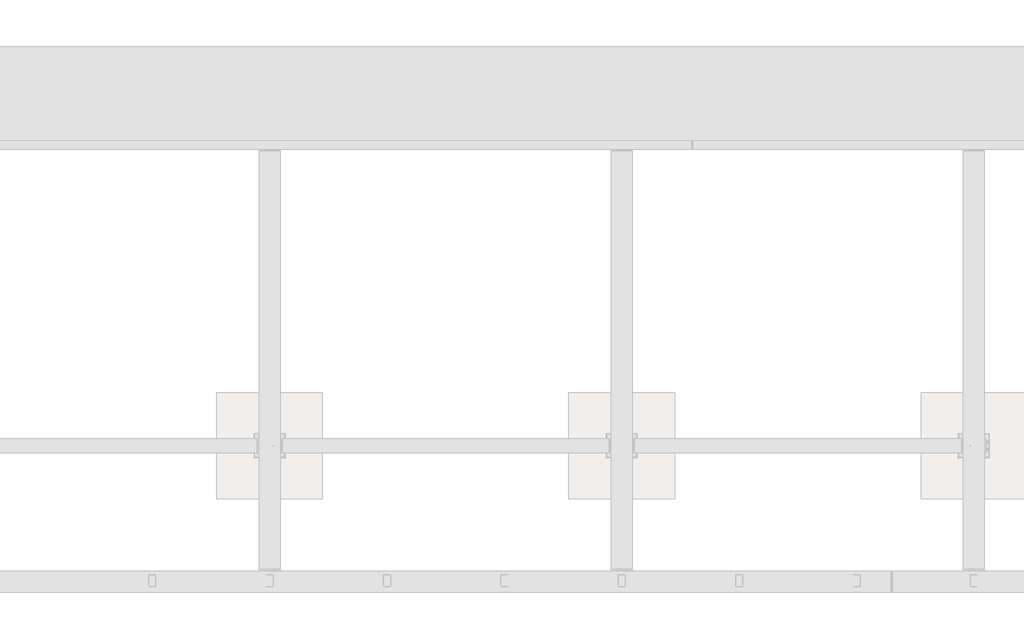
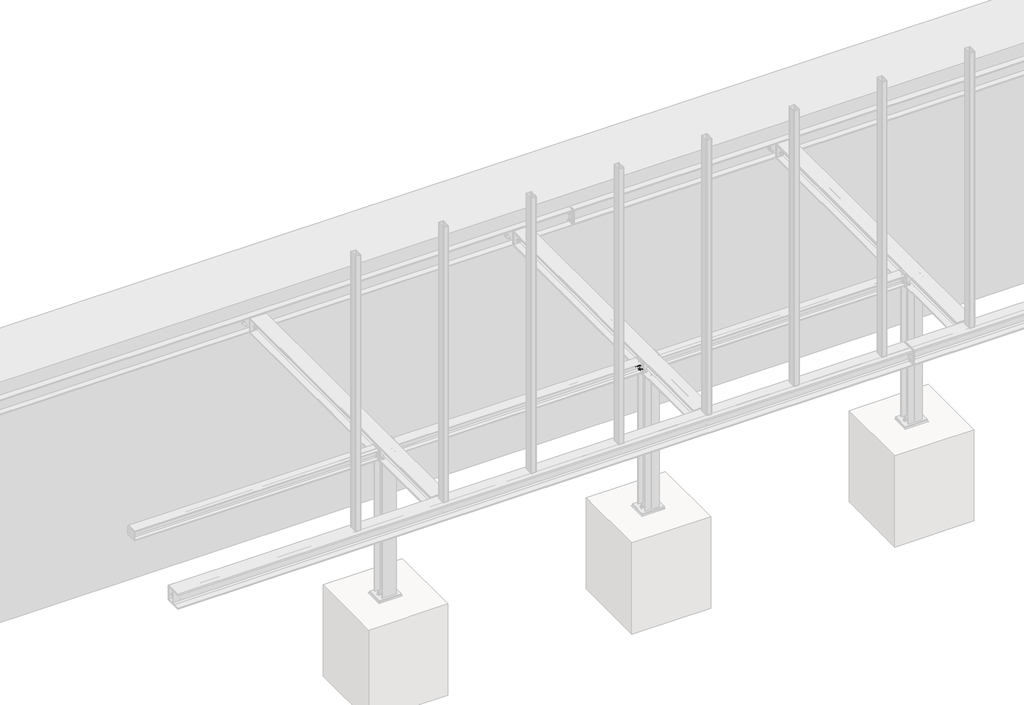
# One storey, part 21 of 31: 4 assemblies.
"""IFC4 building model written with IfcOpenShell, lengths in millimetres."""

import ifcopenshell
import ifcopenshell.guid

model = None  # the IFC model being written
_history = None  # IfcOwnerHistory: only IFC2X3 demands one
_inside = {}  # id of a spatial element -> (the spatial element, [elements in it])
_under = {}  # id of a project, library or spatial element -> (it, [spatial elements below it])
_declared = {}  # id of a project -> (the project, [libraries it declares])
_typed = {}  # id of a type object -> (the type object, [elements of that type])
_made_of = {}  # id of a material, layer set ... -> (it, [elements and type objects made of it])


def new_model(schema):
    """Start an empty IFC model of exactly this schema.

    Asked for "IFC4X3", IfcOpenShell would pick the latest addendum, in which some entities
    have other attributes; the version numbers below select the first issue.
    IFC2X3 requires an IfcOwnerHistory on every rooted entity: one is made here for all.
    """
    global model, _history
    if schema == "IFC4X3":
        model = ifcopenshell.file(schema_version=(4, 3, 0, 0))
    else:
        model = ifcopenshell.file(schema=schema)
    _inside.clear()
    _under.clear()
    _declared.clear()
    _typed.clear()
    _made_of.clear()
    _history = None
    if model.schema == "IFC2X3":
        org = make("IfcOrganization", Name="unknown")
        user = make(
            "IfcPersonAndOrganization",
            ThePerson=make("IfcPerson", FamilyName="unknown"),
            TheOrganization=org,
        )
        app = make(
            "IfcApplication",
            ApplicationDeveloper=org,
            Version="unknown",
            ApplicationFullName="unknown",
            ApplicationIdentifier="unknown",
        )
        _history = make(
            "IfcOwnerHistory",
            OwningUser=user,
            OwningApplication=app,
            ChangeAction="ADDED",
            CreationDate=0,
        )
    return model


def make(cls, **values):
    """One entity of the class cls with the attributes given. An attribute that is None is left unset."""
    return model.create_entity(
        cls, **{name: value for name, value in values.items() if value is not None}
    )


def rooted(cls, **values):
    """An entity with a GlobalId (a new one), such as an element, a storey or a relation."""
    return make(cls, GlobalId=ifcopenshell.guid.new(), OwnerHistory=_history, **values)


def si_unit(unit_type, name, prefix=None):
    """IfcSIUnit, for example si_unit("LENGTHUNIT", "METRE", prefix="MILLI")."""
    return make("IfcSIUnit", UnitType=unit_type, Prefix=prefix, Name=name)


def assignment(units):
    """IfcUnitAssignment: the units of a project."""
    return None if units is None else make("IfcUnitAssignment", Units=units)


def point(xyz):
    """IfcCartesianPoint."""
    return None if xyz is None else make("IfcCartesianPoint", Coordinates=xyz)


def direction(xyz):
    """IfcDirection."""
    return None if xyz is None else make("IfcDirection", DirectionRatios=xyz)


def frame(location, z_axis=None, x_axis=None):
    """IfcAxis2Placement3D, a coordinate frame: its origin and axes. An axis left out is left unset."""
    return make(
        "IfcAxis2Placement3D",
        Location=point(location),
        Axis=direction(z_axis),
        RefDirection=direction(x_axis),
    )


def frame_2d(location, x_axis=None):
    """IfcAxis2Placement2D, a coordinate frame in the plane: its origin and x axis."""
    return make(
        "IfcAxis2Placement2D", Location=point(location), RefDirection=direction(x_axis)
    )


def origin():
    """The frame at (0, 0, 0) with its axes left unset."""
    return frame((0.0, 0.0, 0.0))


def place(relative_to, where):
    """IfcLocalPlacement: puts the frame where relative to a parent placement (None: the world)."""
    return make(
        "IfcLocalPlacement", PlacementRelTo=relative_to, RelativePlacement=where
    )


def context(
    kind, dimensions, precision=None, world=None, true_north=None, identifier=None
):
    """IfcGeometricRepresentationContext, for example the 3D "Model" context."""
    return make(
        "IfcGeometricRepresentationContext",
        ContextIdentifier=identifier,
        ContextType=kind,
        CoordinateSpaceDimension=dimensions,
        Precision=precision,
        WorldCoordinateSystem=world,
        TrueNorth=true_north,
    )


def project(units=None, contexts=None):
    """IfcProject with its units and contexts."""
    return rooted(
        "IfcProject",
        Name="project",
        RepresentationContexts=contexts,
        UnitsInContext=assignment(units),
    )


def spatial(cls, under=None, at=None, **own):
    """A site, building, storey or space (cls), placed at a placement, below another one or the project."""
    s = rooted(cls, ObjectPlacement=at, **own)
    if under is not None:
        _under.setdefault(under.id(), (under, []))[1].append(s)
    return s


def polyline(points):
    """IfcPolyline through the points."""
    return make("IfcPolyline", Points=[point(p) for p in points])


def circle_curve(where, radius):
    """IfcCircle in the frame where."""
    return make("IfcCircle", Position=where, Radius=radius)


def trimmed(basis, trim1, trim2, sense, master):
    """IfcTrimmedCurve: the piece of a basis curve between two trims."""
    return make(
        "IfcTrimmedCurve",
        BasisCurve=basis,
        Trim1=trim1,
        Trim2=trim2,
        SenseAgreement=sense,
        MasterRepresentation=master,
    )


def segment(curve, same_sense, transition):
    """IfcCompositeCurveSegment."""
    return make(
        "IfcCompositeCurveSegment",
        Transition=transition,
        SameSense=same_sense,
        ParentCurve=curve,
    )


def composite_curve(segments, self_intersect=None):
    """IfcCompositeCurve: segments joined end to end."""
    return make("IfcCompositeCurve", Segments=segments, SelfIntersect=self_intersect)


def outline(outer, holes=None, kind="AREA"):
    """IfcArbitraryClosedProfileDef: a profile drawn as a closed curve; with holes, ...WithVoids."""
    if holes is None:
        return make("IfcArbitraryClosedProfileDef", ProfileType=kind, OuterCurve=outer)
    return make(
        "IfcArbitraryProfileDefWithVoids",
        ProfileType=kind,
        OuterCurve=outer,
        InnerCurves=holes,
    )


def extrude(swept, where, along, depth):
    """IfcExtrudedAreaSolid: the profile swept, set in the frame where, extruded along a direction by depth."""
    return make(
        "IfcExtrudedAreaSolid",
        SweptArea=swept,
        Position=where,
        ExtrudedDirection=direction(along),
        Depth=depth,
    )


def shape(context_of_items, identifier, shape_type, items):
    """IfcShapeRepresentation: the items that make up one representation, for example the "Body"."""
    return make(
        "IfcShapeRepresentation",
        ContextOfItems=context_of_items,
        RepresentationIdentifier=identifier,
        RepresentationType=shape_type,
        Items=items,
    )


def made_of(thing, what):
    """Note that an element or type object is made of a material, layer set ...; save() writes the relation."""
    if what is not None:
        _made_of.setdefault(what.id(), (what, []))[1].append(thing)
    return thing


def element(
    cls,
    number,
    at=None,
    inside=None,
    cuts=None,
    type_object=None,
    material=None,
    context=None,
    identifier="Body",
    shape_type=None,
    held_by="IfcProductDefinitionShape",
    body=None,
    shapes=None,
    **own,
):
    """One element of the class cls, such as IfcWall. Its Tag is "e" and its number.

    at: its placement. inside: the storey or other place that contains it. cuts: it is an
    opening in that element (IfcRelVoidsElement). A single representation is given by context,
    identifier, shape_type and body (its items); several are given by shapes. held_by: the class
    of the entity that holds the representations. save() writes the other relations.
    """
    e = rooted(cls, Tag="e%d" % number, ObjectPlacement=at, **own)
    if body is not None:
        shapes = [shape(context, identifier, shape_type, body)]
    if shapes is not None:
        e.Representation = make(held_by, Representations=shapes)
    if inside is not None:
        _inside.setdefault(inside.id(), (inside, []))[1].append(e)
    if cuts is not None:
        rooted(
            "IfcRelVoidsElement", RelatingBuildingElement=cuts, RelatedOpeningElement=e
        )
    if type_object is not None:
        _typed.setdefault(type_object.id(), (type_object, []))[1].append(e)
    return made_of(e, material)


def aggregate(whole, parts):
    """IfcRelAggregates: a whole, such as a stair, and the parts it consists of."""
    return rooted("IfcRelAggregates", RelatingObject=whole, RelatedObjects=parts)


def save(model, path):
    """Write the relations noted so far, then the file.

    IfcRelAggregates (storeys below a building ...), IfcRelContainedInSpatialStructure (elements
    in a storey), IfcRelDefinesByType, IfcRelAssociatesMaterial and IfcRelDeclares: one each for
    every whole, place, type object, material and project.
    """
    for whole, parts in _under.values():
        aggregate(whole, parts)
    for where, things in _inside.values():
        rooted(
            "IfcRelContainedInSpatialStructure",
            RelatedElements=things,
            RelatingStructure=where,
        )
    for kind, things in _typed.values():
        rooted("IfcRelDefinesByType", RelatedObjects=things, RelatingType=kind)
    for what, things in _made_of.values():
        rooted("IfcRelAssociatesMaterial", RelatedObjects=things, RelatingMaterial=what)
    for by, libraries in _declared.values():
        rooted("IfcRelDeclares", RelatingContext=by, RelatedDefinitions=libraries)
    model.write(path)


model = new_model("IFC4")

# Units and contexts
model_context = context("Model", 3, world=origin())
ifc_project = project(units=[si_unit("LENGTHUNIT", "METRE", prefix="MILLI")], contexts=[model_context])

# Site, building, storey
site = spatial("IfcSite", under=ifc_project)
building = spatial("IfcBuilding", under=site)
storey = spatial("IfcBuildingStorey", under=building, Name="Základy", Elevation=-1200.0)

# Assemblies
placement = place(None, origin())
element("IfcElementAssembly", 1, at=placement, inside=storey, context=model_context, shape_type="SweptSolid", body=[
    extrude(outline(composite_curve([segment(polyline([(6073.6, 60.0), (6026.4, 60.0)]), True, "CONTINUOUS"), segment(trimmed(circle_curve(frame_2d((6026.4, 66.4)), 6.4), [point((6026.4, 60.0))], [point((6020.0, 66.4))], False, "CARTESIAN"), True, "CONTINUOUS"), segment(polyline([(6020.0, 66.4), (6020.0, 153.6)]), True, "CONTINUOUS"), segment(trimmed(circle_curve(frame_2d((6026.4, 153.6)), 6.4), [point((6020.0, 153.6))], [point((6026.4, 160.0))], False, "CARTESIAN"), True, "CONTINUOUS"), segment(polyline([(6026.4, 160.0), (6073.6, 160.0)]), True, "CONTINUOUS"), segment(trimmed(circle_curve(frame_2d((6073.6, 153.6)), 6.4), [point((6073.6, 160.0))], [point((6080.0, 153.6))], False, "CARTESIAN"), True, "CONTINUOUS"), segment(polyline([(6080.0, 153.6), (6080.0, 66.4)]), True, "CONTINUOUS"), segment(trimmed(circle_curve(frame_2d((6073.6, 66.4)), 6.4), [point((6080.0, 66.4))], [point((6073.6, 60.0))], False, "CARTESIAN"), True, "CONTINUOUS")], self_intersect=False), holes=[composite_curve([segment(trimmed(circle_curve(frame_2d((6073.6, 66.4)), 3.2), [point((6073.6, 63.2))], [point((6076.8, 66.4))], True, "CARTESIAN"), True, "CONTINUOUS"), segment(polyline([(6076.8, 66.4), (6076.8, 153.6)]), True, "CONTINUOUS"), segment(trimmed(circle_curve(frame_2d((6073.6, 153.6)), 3.2), [point((6076.8, 153.6))], [point((6073.6, 156.8))], True, "CARTESIAN"), True, "CONTINUOUS"), segment(polyline([(6073.6, 156.8), (6026.4, 156.8)]), True, "CONTINUOUS"), segment(trimmed(circle_curve(frame_2d((6026.4, 153.6)), 3.2), [point((6026.4, 156.8))], [point((6023.2, 153.6))], True, "CARTESIAN"), True, "CONTINUOUS"), segment(polyline([(6023.2, 153.6), (6023.2, 66.4)]), True, "CONTINUOUS"), segment(trimmed(circle_curve(frame_2d((6026.4, 66.4)), 3.2), [point((6023.2, 66.4))], [point((6026.4, 63.2))], True, "CARTESIAN"), True, "CONTINUOUS"), segment(polyline([(6026.4, 63.2), (6073.6, 63.2)]), True, "CONTINUOUS")], self_intersect=False)]), frame((0.0, 0.0, -160.0), z_axis=(0.0, 0.0, 1.0), x_axis=(1.0, 0.0, 0.0)), (0.0, 0.0, 1.0), 3320.0),
])
element("IfcElementAssembly", 2, at=placement, inside=storey, context=model_context, shape_type="SweptSolid", body=[
    extrude(outline(composite_curve([segment(polyline([(7073.6, 60.0), (7026.4, 60.0)]), True, "CONTINUOUS"), segment(trimmed(circle_curve(frame_2d((7026.4, 66.4)), 6.4), [point((7026.4, 60.0))], [point((7020.0, 66.4))], False, "CARTESIAN"), True, "CONTINUOUS"), segment(polyline([(7020.0, 66.4), (7020.0, 153.6)]), True, "CONTINUOUS"), segment(trimmed(circle_curve(frame_2d((7026.4, 153.6)), 6.4), [point((7020.0, 153.6))], [point((7026.4, 160.0))], False, "CARTESIAN"), True, "CONTINUOUS"), segment(polyline([(7026.4, 160.0), (7073.6, 160.0)]), True, "CONTINUOUS"), segment(trimmed(circle_curve(frame_2d((7073.6, 153.6)), 6.4), [point((7073.6, 160.0))], [point((7080.0, 153.6))], False, "CARTESIAN"), True, "CONTINUOUS"), segment(polyline([(7080.0, 153.6), (7080.0, 66.4)]), True, "CONTINUOUS"), segment(trimmed(circle_curve(frame_2d((7073.6, 66.4)), 6.4), [point((7080.0, 66.4))], [point((7073.6, 60.0))], False, "CARTESIAN"), True, "CONTINUOUS")], self_intersect=False), holes=[composite_curve([segment(trimmed(circle_curve(frame_2d((7073.6, 66.4)), 3.2), [point((7073.6, 63.2))], [point((7076.8, 66.4))], True, "CARTESIAN"), True, "CONTINUOUS"), segment(polyline([(7076.8, 66.4), (7076.8, 153.6)]), True, "CONTINUOUS"), segment(trimmed(circle_curve(frame_2d((7073.6, 153.6)), 3.2), [point((7076.8, 153.6))], [point((7073.6, 156.8))], True, "CARTESIAN"), True, "CONTINUOUS"), segment(polyline([(7073.6, 156.8), (7026.4, 156.8)]), True, "CONTINUOUS"), segment(trimmed(circle_curve(frame_2d((7026.4, 153.6)), 3.2), [point((7026.4, 156.8))], [point((7023.2, 153.6))], True, "CARTESIAN"), True, "CONTINUOUS"), segment(polyline([(7023.2, 153.6), (7023.2, 66.4)]), True, "CONTINUOUS"), segment(trimmed(circle_curve(frame_2d((7026.4, 66.4)), 3.2), [point((7023.2, 66.4))], [point((7026.4, 63.2))], True, "CARTESIAN"), True, "CONTINUOUS"), segment(polyline([(7026.4, 63.2), (7073.6, 63.2)]), True, "CONTINUOUS")], self_intersect=False)]), frame((0.0, 0.0, -160.0), z_axis=(0.0, 0.0, 1.0), x_axis=(1.0, 0.0, 0.0)), (0.0, 0.0, 1.0), 3320.0),
])
element("IfcElementAssembly", 3, at=placement, inside=storey, context=model_context, shape_type="SweptSolid", body=[
    extrude(outline(composite_curve([segment(polyline([(1200.0, -193.0), (1320.0, -193.0), (1320.0, -201.0), (1274.5, -201.0)]), True, "CONTINUOUS"), segment(trimmed(circle_curve(frame_2d((1274.5, -213.0)), 12.0), [point((1274.5, -201.0))], [point((1262.5, -213.0))], True, "CARTESIAN"), True, "CONTINUOUS"), segment(polyline([(1262.5, -213.0), (1262.5, -287.0)]), True, "CONTINUOUS"), segment(trimmed(circle_curve(frame_2d((1274.5, -287.0)), 12.0), [point((1262.5, -287.0))], [point((1274.5, -299.0))], True, "CARTESIAN"), True, "CONTINUOUS"), segment(polyline([(1274.5, -299.0), (1320.0, -299.0), (1320.0, -307.0), (1200.0, -307.0), (1200.0, -299.0), (1245.5, -299.0)]), True, "CONTINUOUS"), segment(trimmed(circle_curve(frame_2d((1245.5, -287.0)), 12.0), [point((1245.5, -299.0))], [point((1257.5, -287.0))], True, "CARTESIAN"), True, "CONTINUOUS"), segment(polyline([(1257.5, -287.0), (1257.5, -213.0)]), True, "CONTINUOUS"), segment(trimmed(circle_curve(frame_2d((1245.5, -213.0)), 12.0), [point((1257.5, -213.0))], [point((1245.5, -201.0))], True, "CARTESIAN"), True, "CONTINUOUS"), segment(polyline([(1245.5, -201.0), (1200.0, -201.0), (1200.0, -193.0)]), True, "CONTINUOUS")], self_intersect=False)), frame((3160.0, 0.0, 0.0), z_axis=(1.0, 0.0, 0.0), x_axis=(0.0, 1.0, 0.0)), (0.0, 0.0, 1.0), 2780.0),
    extrude(outline(polyline([(5940.0, 1200.0), (5940.0, 1320.0), (5950.0, 1320.0), (5950.0, 1200.0), (5940.0, 1200.0)])), frame((0.0, 0.0, -299.0), z_axis=(0.0, 0.0, 1.0), x_axis=(1.0, 0.0, 0.0)), (0.0, 0.0, 1.0), 98.0),
    extrude(outline(polyline([(3150.0, 1200.0), (3150.0, 1320.0), (3160.0, 1320.0), (3160.0, 1200.0), (3150.0, 1200.0)])), frame((0.0, 0.0, -299.0), z_axis=(0.0, 0.0, 1.0), x_axis=(1.0, 0.0, 0.0)), (0.0, 0.0, 1.0), 98.0),
])
element("IfcElementAssembly", 4, at=placement, inside=storey, context=model_context, shape_type="SweptSolid", body=[
    extrude(outline(composite_curve([segment(polyline([(-340.0, 6140.0), (-326.0, 6140.0), (-326.0, 6069.25)]), True, "CONTINUOUS"), segment(trimmed(circle_curve(frame_2d((-311.0, 6069.25)), 15.0), [point((-326.0, 6069.25))], [point((-311.0, 6054.25))], True, "CARTESIAN"), True, "CONTINUOUS"), segment(polyline([(-311.0, 6054.25), (-189.0, 6054.25)]), True, "CONTINUOUS"), segment(trimmed(circle_curve(frame_2d((-189.0, 6069.25)), 15.0), [point((-189.0, 6054.25))], [point((-174.0, 6069.25))], True, "CARTESIAN"), True, "CONTINUOUS"), segment(polyline([(-174.0, 6069.25), (-174.0, 6140.0), (-160.0, 6140.0), (-160.0, 5960.0), (-174.0, 5960.0), (-174.0, 6030.75)]), True, "CONTINUOUS"), segment(trimmed(circle_curve(frame_2d((-189.0, 6030.75)), 15.0), [point((-174.0, 6030.75))], [point((-189.0, 6045.75))], True, "CARTESIAN"), True, "CONTINUOUS"), segment(polyline([(-189.0, 6045.75), (-311.0, 6045.75)]), True, "CONTINUOUS"), segment(trimmed(circle_curve(frame_2d((-311.0, 6030.75)), 15.0), [point((-311.0, 6045.75))], [point((-326.0, 6030.75))], True, "CARTESIAN"), True, "CONTINUOUS"), segment(polyline([(-326.0, 6030.75), (-326.0, 5960.0), (-340.0, 5960.0), (-340.0, 6140.0)]), True, "CONTINUOUS")], self_intersect=False)), frame((0.0, 210.0, 0.0), z_axis=(0.0, 1.0, 0.0), x_axis=(0.0, 0.0, 1.0)), (0.0, 0.0, 1.0), 3557.0),
    extrude(outline(polyline([(5960.0, 3775.0), (6140.0, 3775.0), (6140.0, 3767.0), (5960.0, 3767.0), (5960.0, 3775.0)])), frame((0.0, 0.0, -316.0), z_axis=(0.0, 0.0, 1.0), x_axis=(1.0, 0.0, 0.0)), (0.0, 0.0, 1.0), 132.0),
    extrude(outline(polyline([(5950.0, 1200.0), (5950.0, 1320.0), (5960.0, 1320.0), (5960.0, 1200.0), (5950.0, 1200.0)])), frame((0.0, 0.0, -332.0), z_axis=(0.0, 0.0, 1.0), x_axis=(1.0, 0.0, 0.0)), (0.0, 0.0, 1.0), 164.0),
    extrude(outline(polyline([(6140.0, 1200.0), (6140.0, 1320.0), (6150.0, 1320.0), (6150.0, 1200.0), (6140.0, 1200.0)])), frame((0.0, 0.0, -332.0), z_axis=(0.0, 0.0, 1.0), x_axis=(1.0, 0.0, 0.0)), (0.0, 0.0, 1.0), 164.0),
    extrude(outline(composite_curve([segment(polyline([(-174.0, 6140.0), (-174.0, 6079.5)]), True, "CONTINUOUS"), segment(trimmed(circle_curve(frame_2d((-174.0, 6054.5)), 25.0), [point((-174.0, 6079.5))], [point((-199.0, 6054.5))], True, "CARTESIAN"), True, "CONTINUOUS"), segment(polyline([(-199.0, 6054.5), (-301.0, 6054.5)]), True, "CONTINUOUS"), segment(trimmed(circle_curve(frame_2d((-326.0, 6054.5)), 25.0), [point((-301.0, 6054.5))], [point((-326.0, 6079.5))], True, "CARTESIAN"), True, "CONTINUOUS"), segment(polyline([(-326.0, 6079.5), (-326.0, 6140.0), (-174.0, 6140.0)]), True, "CONTINUOUS")], self_intersect=False)), frame((0.0, 1256.0, 0.0), z_axis=(0.0, 1.0, 0.0), x_axis=(0.0, 0.0, 1.0)), (0.0, 0.0, 1.0), 8.0),
    extrude(outline(composite_curve([segment(polyline([(-174.0, 5960.0), (-326.0, 5960.0), (-326.0, 6020.5)]), True, "CONTINUOUS"), segment(trimmed(circle_curve(frame_2d((-326.0, 6045.5)), 25.0), [point((-326.0, 6020.5))], [point((-301.0, 6045.5))], True, "CARTESIAN"), True, "CONTINUOUS"), segment(polyline([(-301.0, 6045.5), (-199.0, 6045.5)]), True, "CONTINUOUS"), segment(trimmed(circle_curve(frame_2d((-174.0, 6045.5)), 25.0), [point((-199.0, 6045.5))], [point((-174.0, 6020.5))], True, "CARTESIAN"), True, "CONTINUOUS"), segment(polyline([(-174.0, 6020.5), (-174.0, 5960.0)]), True, "CONTINUOUS")], self_intersect=False)), frame((0.0, 1256.0, 0.0), z_axis=(0.0, 1.0, 0.0), x_axis=(0.0, 0.0, 1.0)), (0.0, 0.0, 1.0), 8.0),
    extrude(outline(polyline([(5960.0, 210.0), (6140.0, 210.0), (6140.0, 200.0), (5960.0, 200.0), (5960.0, 210.0)])), frame((0.0, 0.0, -332.0), z_axis=(0.0, 0.0, 1.0), x_axis=(1.0, 0.0, 0.0)), (0.0, 0.0, 1.0), 164.0),
    extrude(outline(composite_curve([segment(trimmed(circle_curve(frame_2d((1230.0, -225.0)), 6.5), [point((1230.0, -231.5))], [point((1230.0, -218.5))], False, "CARTESIAN"), True, "CONTINUOUS"), segment(trimmed(circle_curve(frame_2d((1230.0, -225.0)), 6.5), [point((1230.0, -218.5))], [point((1230.0, -231.5))], False, "CARTESIAN"), True, "CONTINUOUS")], self_intersect=False)), frame((5949.9, 0.0, 0.0), z_axis=(1.0, 0.0, 0.0), x_axis=(0.0, 1.0, 0.0)), (0.0, 0.0, 1.0), 10.0),
    extrude(outline(polyline([(1230.0, -235.3923048), (1221.0, -230.1961524), (1221.0, -219.8038476), (1230.0, -214.6076952), (1239.0, -219.8038476), (1239.0, -230.1961524), (1230.0, -235.3923048)])), frame((5962.5, 0.0, 0.0), z_axis=(1.0, 0.0, 0.0), x_axis=(0.0, 1.0, 0.0)), (0.0, 0.0, 1.0), 7.5),
    extrude(outline(composite_curve([segment(trimmed(circle_curve(frame_2d((1230.0, -225.0)), 6.0), [point((1230.0, -231.0))], [point((1230.0, -219.0))], False, "CARTESIAN"), True, "CONTINUOUS"), segment(trimmed(circle_curve(frame_2d((1230.0, -225.0)), 6.0), [point((1230.0, -219.0))], [point((1230.0, -231.0))], False, "CARTESIAN"), True, "CONTINUOUS")], self_intersect=False)), frame((5922.5, 0.0, 0.0), z_axis=(1.0, 0.0, 0.0), x_axis=(0.0, 1.0, 0.0)), (0.0, 0.0, 1.0), 40.0),
    extrude(outline(composite_curve([segment(trimmed(circle_curve(frame_2d((1230.0, -225.0)), 12.0), [point((1230.0, -237.0))], [point((1230.0, -213.0))], False, "CARTESIAN"), True, "CONTINUOUS"), segment(trimmed(circle_curve(frame_2d((1230.0, -225.0)), 12.0), [point((1230.0, -213.0))], [point((1230.0, -237.0))], False, "CARTESIAN"), True, "CONTINUOUS")], self_intersect=False)), frame((5960.0, 0.0, 0.0), z_axis=(1.0, 0.0, 0.0), x_axis=(0.0, 1.0, 0.0)), (0.0, 0.0, 1.0), 2.5),
    extrude(outline(composite_curve([segment(trimmed(circle_curve(frame_2d((1230.0, -225.0)), 12.0), [point((1230.0, -237.0))], [point((1230.0, -213.0))], False, "CARTESIAN"), True, "CONTINUOUS"), segment(trimmed(circle_curve(frame_2d((1230.0, -225.0)), 12.0), [point((1230.0, -213.0))], [point((1230.0, -237.0))], False, "CARTESIAN"), True, "CONTINUOUS")], self_intersect=False)), frame((5937.5, 0.0, 0.0), z_axis=(1.0, 0.0, 0.0), x_axis=(0.0, 1.0, 0.0)), (0.0, 0.0, 1.0), 2.5),
    extrude(outline(polyline([(1230.0, -235.9696551), (1220.5, -230.4848276), (1220.5, -219.5151724), (1230.0, -214.0303449), (1239.5, -219.5151724), (1239.5, -230.4848276), (1230.0, -235.9696551)])), frame((5927.5, 0.0, 0.0), z_axis=(1.0, 0.0, 0.0), x_axis=(0.0, 1.0, 0.0)), (0.0, 0.0, 1.0), 10.0),
    extrude(outline(composite_curve([segment(trimmed(circle_curve(frame_2d((1230.0, -225.0)), 6.5), [point((1230.0, -231.5))], [point((1230.0, -218.5))], False, "CARTESIAN"), True, "CONTINUOUS"), segment(trimmed(circle_curve(frame_2d((1230.0, -225.0)), 6.5), [point((1230.0, -218.5))], [point((1230.0, -231.5))], False, "CARTESIAN"), True, "CONTINUOUS")], self_intersect=False)), frame((5940.0, 0.0, 0.0), z_axis=(1.0, 0.0, 0.0), x_axis=(0.0, 1.0, 0.0)), (0.0, 0.0, 1.0), 10.1),
    extrude(outline(composite_curve([segment(trimmed(circle_curve(frame_2d((1230.0, -275.0)), 6.5), [point((1230.0, -281.5))], [point((1230.0, -268.5))], False, "CARTESIAN"), True, "CONTINUOUS"), segment(trimmed(circle_curve(frame_2d((1230.0, -275.0)), 6.5), [point((1230.0, -268.5))], [point((1230.0, -281.5))], False, "CARTESIAN"), True, "CONTINUOUS")], self_intersect=False)), frame((5949.9, 0.0, 0.0), z_axis=(1.0, 0.0, 0.0), x_axis=(0.0, 1.0, 0.0)), (0.0, 0.0, 1.0), 10.0),
    extrude(outline(polyline([(1230.0, -285.3923048), (1221.0, -280.1961524), (1221.0, -269.8038476), (1230.0, -264.6076952), (1239.0, -269.8038476), (1239.0, -280.1961524), (1230.0, -285.3923048)])), frame((5962.5, 0.0, 0.0), z_axis=(1.0, 0.0, 0.0), x_axis=(0.0, 1.0, 0.0)), (0.0, 0.0, 1.0), 7.5),
    extrude(outline(composite_curve([segment(trimmed(circle_curve(frame_2d((1230.0, -275.0)), 6.0), [point((1230.0, -281.0))], [point((1230.0, -269.0))], False, "CARTESIAN"), True, "CONTINUOUS"), segment(trimmed(circle_curve(frame_2d((1230.0, -275.0)), 6.0), [point((1230.0, -269.0))], [point((1230.0, -281.0))], False, "CARTESIAN"), True, "CONTINUOUS")], self_intersect=False)), frame((5922.5, 0.0, 0.0), z_axis=(1.0, 0.0, 0.0), x_axis=(0.0, 1.0, 0.0)), (0.0, 0.0, 1.0), 40.0),
    extrude(outline(composite_curve([segment(trimmed(circle_curve(frame_2d((1230.0, -275.0)), 12.0), [point((1230.0, -287.0))], [point((1230.0, -263.0))], False, "CARTESIAN"), True, "CONTINUOUS"), segment(trimmed(circle_curve(frame_2d((1230.0, -275.0)), 12.0), [point((1230.0, -263.0))], [point((1230.0, -287.0))], False, "CARTESIAN"), True, "CONTINUOUS")], self_intersect=False)), frame((5960.0, 0.0, 0.0), z_axis=(1.0, 0.0, 0.0), x_axis=(0.0, 1.0, 0.0)), (0.0, 0.0, 1.0), 2.5),
    extrude(outline(composite_curve([segment(trimmed(circle_curve(frame_2d((1230.0, -275.0)), 12.0), [point((1230.0, -287.0))], [point((1230.0, -263.0))], False, "CARTESIAN"), True, "CONTINUOUS"), segment(trimmed(circle_curve(frame_2d((1230.0, -275.0)), 12.0), [point((1230.0, -263.0))], [point((1230.0, -287.0))], False, "CARTESIAN"), True, "CONTINUOUS")], self_intersect=False)), frame((5937.5, 0.0, 0.0), z_axis=(1.0, 0.0, 0.0), x_axis=(0.0, 1.0, 0.0)), (0.0, 0.0, 1.0), 2.5),
    extrude(outline(polyline([(1230.0, -285.9696551), (1220.5, -280.4848276), (1220.5, -269.5151724), (1230.0, -264.0303449), (1239.5, -269.5151724), (1239.5, -280.4848276), (1230.0, -285.9696551)])), frame((5927.5, 0.0, 0.0), z_axis=(1.0, 0.0, 0.0), x_axis=(0.0, 1.0, 0.0)), (0.0, 0.0, 1.0), 10.0),
    extrude(outline(composite_curve([segment(trimmed(circle_curve(frame_2d((1230.0, -275.0)), 6.5), [point((1230.0, -281.5))], [point((1230.0, -268.5))], False, "CARTESIAN"), True, "CONTINUOUS"), segment(trimmed(circle_curve(frame_2d((1230.0, -275.0)), 6.5), [point((1230.0, -268.5))], [point((1230.0, -281.5))], False, "CARTESIAN"), True, "CONTINUOUS")], self_intersect=False)), frame((5940.0, 0.0, 0.0), z_axis=(1.0, 0.0, 0.0), x_axis=(0.0, 1.0, 0.0)), (0.0, 0.0, 1.0), 10.1),
    extrude(outline(composite_curve([segment(trimmed(circle_curve(frame_2d((1290.0, -225.0)), 6.5), [point((1290.0, -231.5))], [point((1290.0, -218.5))], False, "CARTESIAN"), True, "CONTINUOUS"), segment(trimmed(circle_curve(frame_2d((1290.0, -225.0)), 6.5), [point((1290.0, -218.5))], [point((1290.0, -231.5))], False, "CARTESIAN"), True, "CONTINUOUS")], self_intersect=False)), frame((5949.9, 0.0, 0.0), z_axis=(1.0, 0.0, 0.0), x_axis=(0.0, 1.0, 0.0)), (0.0, 0.0, 1.0), 10.0),
    extrude(outline(polyline([(1290.0, -235.3923048), (1281.0, -230.1961524), (1281.0, -219.8038476), (1290.0, -214.6076952), (1299.0, -219.8038476), (1299.0, -230.1961524), (1290.0, -235.3923048)])), frame((5962.5, 0.0, 0.0), z_axis=(1.0, 0.0, 0.0), x_axis=(0.0, 1.0, 0.0)), (0.0, 0.0, 1.0), 7.5),
    extrude(outline(composite_curve([segment(trimmed(circle_curve(frame_2d((1290.0, -225.0)), 6.0), [point((1290.0, -231.0))], [point((1290.0, -219.0))], False, "CARTESIAN"), True, "CONTINUOUS"), segment(trimmed(circle_curve(frame_2d((1290.0, -225.0)), 6.0), [point((1290.0, -219.0))], [point((1290.0, -231.0))], False, "CARTESIAN"), True, "CONTINUOUS")], self_intersect=False)), frame((5922.5, 0.0, 0.0), z_axis=(1.0, 0.0, 0.0), x_axis=(0.0, 1.0, 0.0)), (0.0, 0.0, 1.0), 40.0),
    extrude(outline(composite_curve([segment(trimmed(circle_curve(frame_2d((1290.0, -225.0)), 12.0), [point((1290.0, -237.0))], [point((1290.0, -213.0))], False, "CARTESIAN"), True, "CONTINUOUS"), segment(trimmed(circle_curve(frame_2d((1290.0, -225.0)), 12.0), [point((1290.0, -213.0))], [point((1290.0, -237.0))], False, "CARTESIAN"), True, "CONTINUOUS")], self_intersect=False)), frame((5960.0, 0.0, 0.0), z_axis=(1.0, 0.0, 0.0), x_axis=(0.0, 1.0, 0.0)), (0.0, 0.0, 1.0), 2.5),
    extrude(outline(composite_curve([segment(trimmed(circle_curve(frame_2d((1290.0, -225.0)), 12.0), [point((1290.0, -237.0))], [point((1290.0, -213.0))], False, "CARTESIAN"), True, "CONTINUOUS"), segment(trimmed(circle_curve(frame_2d((1290.0, -225.0)), 12.0), [point((1290.0, -213.0))], [point((1290.0, -237.0))], False, "CARTESIAN"), True, "CONTINUOUS")], self_intersect=False)), frame((5937.5, 0.0, 0.0), z_axis=(1.0, 0.0, 0.0), x_axis=(0.0, 1.0, 0.0)), (0.0, 0.0, 1.0), 2.5),
    extrude(outline(polyline([(1290.0, -235.9696551), (1280.5, -230.4848276), (1280.5, -219.5151724), (1290.0, -214.0303449), (1299.5, -219.5151724), (1299.5, -230.4848276), (1290.0, -235.9696551)])), frame((5927.5, 0.0, 0.0), z_axis=(1.0, 0.0, 0.0), x_axis=(0.0, 1.0, 0.0)), (0.0, 0.0, 1.0), 10.0),
    extrude(outline(composite_curve([segment(trimmed(circle_curve(frame_2d((1290.0, -225.0)), 6.5), [point((1290.0, -231.5))], [point((1290.0, -218.5))], False, "CARTESIAN"), True, "CONTINUOUS"), segment(trimmed(circle_curve(frame_2d((1290.0, -225.0)), 6.5), [point((1290.0, -218.5))], [point((1290.0, -231.5))], False, "CARTESIAN"), True, "CONTINUOUS")], self_intersect=False)), frame((5940.0, 0.0, 0.0), z_axis=(1.0, 0.0, 0.0), x_axis=(0.0, 1.0, 0.0)), (0.0, 0.0, 1.0), 10.1),
    extrude(outline(composite_curve([segment(trimmed(circle_curve(frame_2d((1290.0, -275.0)), 6.5), [point((1290.0, -281.5))], [point((1290.0, -268.5))], False, "CARTESIAN"), True, "CONTINUOUS"), segment(trimmed(circle_curve(frame_2d((1290.0, -275.0)), 6.5), [point((1290.0, -268.5))], [point((1290.0, -281.5))], False, "CARTESIAN"), True, "CONTINUOUS")], self_intersect=False)), frame((5949.9, 0.0, 0.0), z_axis=(1.0, 0.0, 0.0), x_axis=(0.0, 1.0, 0.0)), (0.0, 0.0, 1.0), 10.0),
    extrude(outline(polyline([(1290.0, -285.3923048), (1281.0, -280.1961524), (1281.0, -269.8038476), (1290.0, -264.6076952), (1299.0, -269.8038476), (1299.0, -280.1961524), (1290.0, -285.3923048)])), frame((5962.5, 0.0, 0.0), z_axis=(1.0, 0.0, 0.0), x_axis=(0.0, 1.0, 0.0)), (0.0, 0.0, 1.0), 7.5),
    extrude(outline(composite_curve([segment(trimmed(circle_curve(frame_2d((1290.0, -275.0)), 6.0), [point((1290.0, -281.0))], [point((1290.0, -269.0))], False, "CARTESIAN"), True, "CONTINUOUS"), segment(trimmed(circle_curve(frame_2d((1290.0, -275.0)), 6.0), [point((1290.0, -269.0))], [point((1290.0, -281.0))], False, "CARTESIAN"), True, "CONTINUOUS")], self_intersect=False)), frame((5922.5, 0.0, 0.0), z_axis=(1.0, 0.0, 0.0), x_axis=(0.0, 1.0, 0.0)), (0.0, 0.0, 1.0), 40.0),
    extrude(outline(composite_curve([segment(trimmed(circle_curve(frame_2d((1290.0, -275.0)), 12.0), [point((1290.0, -287.0))], [point((1290.0, -263.0))], False, "CARTESIAN"), True, "CONTINUOUS"), segment(trimmed(circle_curve(frame_2d((1290.0, -275.0)), 12.0), [point((1290.0, -263.0))], [point((1290.0, -287.0))], False, "CARTESIAN"), True, "CONTINUOUS")], self_intersect=False)), frame((5960.0, 0.0, 0.0), z_axis=(1.0, 0.0, 0.0), x_axis=(0.0, 1.0, 0.0)), (0.0, 0.0, 1.0), 2.5),
    extrude(outline(composite_curve([segment(trimmed(circle_curve(frame_2d((1290.0, -275.0)), 12.0), [point((1290.0, -287.0))], [point((1290.0, -263.0))], False, "CARTESIAN"), True, "CONTINUOUS"), segment(trimmed(circle_curve(frame_2d((1290.0, -275.0)), 12.0), [point((1290.0, -263.0))], [point((1290.0, -287.0))], False, "CARTESIAN"), True, "CONTINUOUS")], self_intersect=False)), frame((5937.5, 0.0, 0.0), z_axis=(1.0, 0.0, 0.0), x_axis=(0.0, 1.0, 0.0)), (0.0, 0.0, 1.0), 2.5),
    extrude(outline(polyline([(1290.0, -285.9696551), (1280.5, -280.4848276), (1280.5, -269.5151724), (1290.0, -264.0303449), (1299.5, -269.5151724), (1299.5, -280.4848276), (1290.0, -285.9696551)])), frame((5927.5, 0.0, 0.0), z_axis=(1.0, 0.0, 0.0), x_axis=(0.0, 1.0, 0.0)), (0.0, 0.0, 1.0), 10.0),
    extrude(outline(composite_curve([segment(trimmed(circle_curve(frame_2d((1290.0, -275.0)), 6.5), [point((1290.0, -281.5))], [point((1290.0, -268.5))], False, "CARTESIAN"), True, "CONTINUOUS"), segment(trimmed(circle_curve(frame_2d((1290.0, -275.0)), 6.5), [point((1290.0, -268.5))], [point((1290.0, -281.5))], False, "CARTESIAN"), True, "CONTINUOUS")], self_intersect=False)), frame((5940.0, 0.0, 0.0), z_axis=(1.0, 0.0, 0.0), x_axis=(0.0, 1.0, 0.0)), (0.0, 0.0, 1.0), 10.1),
    extrude(outline(composite_curve([segment(trimmed(circle_curve(frame_2d((1230.0, -225.0)), 6.5), [point((1230.0, -231.5))], [point((1230.0, -218.5))], False, "CARTESIAN"), True, "CONTINUOUS"), segment(trimmed(circle_curve(frame_2d((1230.0, -225.0)), 6.5), [point((1230.0, -218.5))], [point((1230.0, -231.5))], False, "CARTESIAN"), True, "CONTINUOUS")], self_intersect=False)), frame((6140.1, 0.0, 0.0), z_axis=(1.0, 0.0, 0.0), x_axis=(0.0, 1.0, 0.0)), (0.0, 0.0, 1.0), 10.0),
    extrude(outline(polyline([(1230.0, -235.3923048), (1221.0, -230.1961524), (1221.0, -219.8038476), (1230.0, -214.6076952), (1239.0, -219.8038476), (1239.0, -230.1961524), (1230.0, -235.3923048)])), frame((6130.0, 0.0, 0.0), z_axis=(1.0, 0.0, 0.0), x_axis=(0.0, 1.0, 0.0)), (0.0, 0.0, 1.0), 7.5),
    extrude(outline(composite_curve([segment(trimmed(circle_curve(frame_2d((1230.0, -225.0)), 6.0), [point((1230.0, -231.0))], [point((1230.0, -219.0))], False, "CARTESIAN"), True, "CONTINUOUS"), segment(trimmed(circle_curve(frame_2d((1230.0, -225.0)), 6.0), [point((1230.0, -219.0))], [point((1230.0, -231.0))], False, "CARTESIAN"), True, "CONTINUOUS")], self_intersect=False)), frame((6137.5, 0.0, 0.0), z_axis=(1.0, 0.0, 0.0), x_axis=(0.0, 1.0, 0.0)), (0.0, 0.0, 1.0), 40.0),
    extrude(outline(composite_curve([segment(trimmed(circle_curve(frame_2d((1230.0, -225.0)), 12.0), [point((1230.0, -237.0))], [point((1230.0, -213.0))], False, "CARTESIAN"), True, "CONTINUOUS"), segment(trimmed(circle_curve(frame_2d((1230.0, -225.0)), 12.0), [point((1230.0, -213.0))], [point((1230.0, -237.0))], False, "CARTESIAN"), True, "CONTINUOUS")], self_intersect=False)), frame((6137.5, 0.0, 0.0), z_axis=(1.0, 0.0, 0.0), x_axis=(0.0, 1.0, 0.0)), (0.0, 0.0, 1.0), 2.5),
    extrude(outline(composite_curve([segment(trimmed(circle_curve(frame_2d((1230.0, -225.0)), 12.0), [point((1230.0, -237.0))], [point((1230.0, -213.0))], False, "CARTESIAN"), True, "CONTINUOUS"), segment(trimmed(circle_curve(frame_2d((1230.0, -225.0)), 12.0), [point((1230.0, -213.0))], [point((1230.0, -237.0))], False, "CARTESIAN"), True, "CONTINUOUS")], self_intersect=False)), frame((6160.0, 0.0, 0.0), z_axis=(1.0, 0.0, 0.0), x_axis=(0.0, 1.0, 0.0)), (0.0, 0.0, 1.0), 2.5),
    extrude(outline(polyline([(1230.0, -235.9696551), (1220.5, -230.4848276), (1220.5, -219.5151724), (1230.0, -214.0303449), (1239.5, -219.5151724), (1239.5, -230.4848276), (1230.0, -235.9696551)])), frame((6162.5, 0.0, 0.0), z_axis=(1.0, 0.0, 0.0), x_axis=(0.0, 1.0, 0.0)), (0.0, 0.0, 1.0), 10.0),
    extrude(outline(composite_curve([segment(trimmed(circle_curve(frame_2d((1230.0, -225.0)), 6.5), [point((1230.0, -231.5))], [point((1230.0, -218.5))], False, "CARTESIAN"), True, "CONTINUOUS"), segment(trimmed(circle_curve(frame_2d((1230.0, -225.0)), 6.5), [point((1230.0, -218.5))], [point((1230.0, -231.5))], False, "CARTESIAN"), True, "CONTINUOUS")], self_intersect=False)), frame((6149.9, 0.0, 0.0), z_axis=(1.0, 0.0, 0.0), x_axis=(0.0, 1.0, 0.0)), (0.0, 0.0, 1.0), 10.1),
    extrude(outline(composite_curve([segment(trimmed(circle_curve(frame_2d((1230.0, -275.0)), 6.5), [point((1230.0, -281.5))], [point((1230.0, -268.5))], False, "CARTESIAN"), True, "CONTINUOUS"), segment(trimmed(circle_curve(frame_2d((1230.0, -275.0)), 6.5), [point((1230.0, -268.5))], [point((1230.0, -281.5))], False, "CARTESIAN"), True, "CONTINUOUS")], self_intersect=False)), frame((6140.1, 0.0, 0.0), z_axis=(1.0, 0.0, 0.0), x_axis=(0.0, 1.0, 0.0)), (0.0, 0.0, 1.0), 10.0),
    extrude(outline(polyline([(1230.0, -285.3923048), (1221.0, -280.1961524), (1221.0, -269.8038476), (1230.0, -264.6076952), (1239.0, -269.8038476), (1239.0, -280.1961524), (1230.0, -285.3923048)])), frame((6130.0, 0.0, 0.0), z_axis=(1.0, 0.0, 0.0), x_axis=(0.0, 1.0, 0.0)), (0.0, 0.0, 1.0), 7.5),
    extrude(outline(composite_curve([segment(trimmed(circle_curve(frame_2d((1230.0, -275.0)), 6.0), [point((1230.0, -281.0))], [point((1230.0, -269.0))], False, "CARTESIAN"), True, "CONTINUOUS"), segment(trimmed(circle_curve(frame_2d((1230.0, -275.0)), 6.0), [point((1230.0, -269.0))], [point((1230.0, -281.0))], False, "CARTESIAN"), True, "CONTINUOUS")], self_intersect=False)), frame((6137.5, 0.0, 0.0), z_axis=(1.0, 0.0, 0.0), x_axis=(0.0, 1.0, 0.0)), (0.0, 0.0, 1.0), 40.0),
    extrude(outline(composite_curve([segment(trimmed(circle_curve(frame_2d((1230.0, -275.0)), 12.0), [point((1230.0, -287.0))], [point((1230.0, -263.0))], False, "CARTESIAN"), True, "CONTINUOUS"), segment(trimmed(circle_curve(frame_2d((1230.0, -275.0)), 12.0), [point((1230.0, -263.0))], [point((1230.0, -287.0))], False, "CARTESIAN"), True, "CONTINUOUS")], self_intersect=False)), frame((6137.5, 0.0, 0.0), z_axis=(1.0, 0.0, 0.0), x_axis=(0.0, 1.0, 0.0)), (0.0, 0.0, 1.0), 2.5),
    extrude(outline(composite_curve([segment(trimmed(circle_curve(frame_2d((1230.0, -275.0)), 12.0), [point((1230.0, -287.0))], [point((1230.0, -263.0))], False, "CARTESIAN"), True, "CONTINUOUS"), segment(trimmed(circle_curve(frame_2d((1230.0, -275.0)), 12.0), [point((1230.0, -263.0))], [point((1230.0, -287.0))], False, "CARTESIAN"), True, "CONTINUOUS")], self_intersect=False)), frame((6160.0, 0.0, 0.0), z_axis=(1.0, 0.0, 0.0), x_axis=(0.0, 1.0, 0.0)), (0.0, 0.0, 1.0), 2.5),
    extrude(outline(polyline([(1230.0, -285.9696551), (1220.5, -280.4848276), (1220.5, -269.5151724), (1230.0, -264.0303449), (1239.5, -269.5151724), (1239.5, -280.4848276), (1230.0, -285.9696551)])), frame((6162.5, 0.0, 0.0), z_axis=(1.0, 0.0, 0.0), x_axis=(0.0, 1.0, 0.0)), (0.0, 0.0, 1.0), 10.0),
    extrude(outline(composite_curve([segment(trimmed(circle_curve(frame_2d((1230.0, -275.0)), 6.5), [point((1230.0, -281.5))], [point((1230.0, -268.5))], False, "CARTESIAN"), True, "CONTINUOUS"), segment(trimmed(circle_curve(frame_2d((1230.0, -275.0)), 6.5), [point((1230.0, -268.5))], [point((1230.0, -281.5))], False, "CARTESIAN"), True, "CONTINUOUS")], self_intersect=False)), frame((6149.9, 0.0, 0.0), z_axis=(1.0, 0.0, 0.0), x_axis=(0.0, 1.0, 0.0)), (0.0, 0.0, 1.0), 10.1),
    extrude(outline(composite_curve([segment(trimmed(circle_curve(frame_2d((1290.0, -225.0)), 6.5), [point((1290.0, -231.5))], [point((1290.0, -218.5))], False, "CARTESIAN"), True, "CONTINUOUS"), segment(trimmed(circle_curve(frame_2d((1290.0, -225.0)), 6.5), [point((1290.0, -218.5))], [point((1290.0, -231.5))], False, "CARTESIAN"), True, "CONTINUOUS")], self_intersect=False)), frame((6140.1, 0.0, 0.0), z_axis=(1.0, 0.0, 0.0), x_axis=(0.0, 1.0, 0.0)), (0.0, 0.0, 1.0), 10.0),
    extrude(outline(polyline([(1290.0, -235.3923048), (1281.0, -230.1961524), (1281.0, -219.8038476), (1290.0, -214.6076952), (1299.0, -219.8038476), (1299.0, -230.1961524), (1290.0, -235.3923048)])), frame((6130.0, 0.0, 0.0), z_axis=(1.0, 0.0, 0.0), x_axis=(0.0, 1.0, 0.0)), (0.0, 0.0, 1.0), 7.5),
    extrude(outline(composite_curve([segment(trimmed(circle_curve(frame_2d((1290.0, -225.0)), 6.0), [point((1290.0, -231.0))], [point((1290.0, -219.0))], False, "CARTESIAN"), True, "CONTINUOUS"), segment(trimmed(circle_curve(frame_2d((1290.0, -225.0)), 6.0), [point((1290.0, -219.0))], [point((1290.0, -231.0))], False, "CARTESIAN"), True, "CONTINUOUS")], self_intersect=False)), frame((6137.5, 0.0, 0.0), z_axis=(1.0, 0.0, 0.0), x_axis=(0.0, 1.0, 0.0)), (0.0, 0.0, 1.0), 40.0),
    extrude(outline(composite_curve([segment(trimmed(circle_curve(frame_2d((1290.0, -225.0)), 12.0), [point((1290.0, -237.0))], [point((1290.0, -213.0))], False, "CARTESIAN"), True, "CONTINUOUS"), segment(trimmed(circle_curve(frame_2d((1290.0, -225.0)), 12.0), [point((1290.0, -213.0))], [point((1290.0, -237.0))], False, "CARTESIAN"), True, "CONTINUOUS")], self_intersect=False)), frame((6137.5, 0.0, 0.0), z_axis=(1.0, 0.0, 0.0), x_axis=(0.0, 1.0, 0.0)), (0.0, 0.0, 1.0), 2.5),
    extrude(outline(composite_curve([segment(trimmed(circle_curve(frame_2d((1290.0, -225.0)), 12.0), [point((1290.0, -237.0))], [point((1290.0, -213.0))], False, "CARTESIAN"), True, "CONTINUOUS"), segment(trimmed(circle_curve(frame_2d((1290.0, -225.0)), 12.0), [point((1290.0, -213.0))], [point((1290.0, -237.0))], False, "CARTESIAN"), True, "CONTINUOUS")], self_intersect=False)), frame((6160.0, 0.0, 0.0), z_axis=(1.0, 0.0, 0.0), x_axis=(0.0, 1.0, 0.0)), (0.0, 0.0, 1.0), 2.5),
    extrude(outline(polyline([(1290.0, -235.9696551), (1280.5, -230.4848276), (1280.5, -219.5151724), (1290.0, -214.0303449), (1299.5, -219.5151724), (1299.5, -230.4848276), (1290.0, -235.9696551)])), frame((6162.5, 0.0, 0.0), z_axis=(1.0, 0.0, 0.0), x_axis=(0.0, 1.0, 0.0)), (0.0, 0.0, 1.0), 10.0),
    extrude(outline(composite_curve([segment(trimmed(circle_curve(frame_2d((1290.0, -225.0)), 6.5), [point((1290.0, -231.5))], [point((1290.0, -218.5))], False, "CARTESIAN"), True, "CONTINUOUS"), segment(trimmed(circle_curve(frame_2d((1290.0, -225.0)), 6.5), [point((1290.0, -218.5))], [point((1290.0, -231.5))], False, "CARTESIAN"), True, "CONTINUOUS")], self_intersect=False)), frame((6149.9, 0.0, 0.0), z_axis=(1.0, 0.0, 0.0), x_axis=(0.0, 1.0, 0.0)), (0.0, 0.0, 1.0), 10.1),
    extrude(outline(composite_curve([segment(trimmed(circle_curve(frame_2d((1290.0, -275.0)), 6.5), [point((1290.0, -281.5))], [point((1290.0, -268.5))], False, "CARTESIAN"), True, "CONTINUOUS"), segment(trimmed(circle_curve(frame_2d((1290.0, -275.0)), 6.5), [point((1290.0, -268.5))], [point((1290.0, -281.5))], False, "CARTESIAN"), True, "CONTINUOUS")], self_intersect=False)), frame((6140.1, 0.0, 0.0), z_axis=(1.0, 0.0, 0.0), x_axis=(0.0, 1.0, 0.0)), (0.0, 0.0, 1.0), 10.0),
    extrude(outline(polyline([(1290.0, -285.3923048), (1281.0, -280.1961524), (1281.0, -269.8038476), (1290.0, -264.6076952), (1299.0, -269.8038476), (1299.0, -280.1961524), (1290.0, -285.3923048)])), frame((6130.0, 0.0, 0.0), z_axis=(1.0, 0.0, 0.0), x_axis=(0.0, 1.0, 0.0)), (0.0, 0.0, 1.0), 7.5),
    extrude(outline(composite_curve([segment(trimmed(circle_curve(frame_2d((1290.0, -275.0)), 6.0), [point((1290.0, -281.0))], [point((1290.0, -269.0))], False, "CARTESIAN"), True, "CONTINUOUS"), segment(trimmed(circle_curve(frame_2d((1290.0, -275.0)), 6.0), [point((1290.0, -269.0))], [point((1290.0, -281.0))], False, "CARTESIAN"), True, "CONTINUOUS")], self_intersect=False)), frame((6137.5, 0.0, 0.0), z_axis=(1.0, 0.0, 0.0), x_axis=(0.0, 1.0, 0.0)), (0.0, 0.0, 1.0), 40.0),
    extrude(outline(composite_curve([segment(trimmed(circle_curve(frame_2d((1290.0, -275.0)), 12.0), [point((1290.0, -287.0))], [point((1290.0, -263.0))], False, "CARTESIAN"), True, "CONTINUOUS"), segment(trimmed(circle_curve(frame_2d((1290.0, -275.0)), 12.0), [point((1290.0, -263.0))], [point((1290.0, -287.0))], False, "CARTESIAN"), True, "CONTINUOUS")], self_intersect=False)), frame((6137.5, 0.0, 0.0), z_axis=(1.0, 0.0, 0.0), x_axis=(0.0, 1.0, 0.0)), (0.0, 0.0, 1.0), 2.5),
    extrude(outline(composite_curve([segment(trimmed(circle_curve(frame_2d((1290.0, -275.0)), 12.0), [point((1290.0, -287.0))], [point((1290.0, -263.0))], False, "CARTESIAN"), True, "CONTINUOUS"), segment(trimmed(circle_curve(frame_2d((1290.0, -275.0)), 12.0), [point((1290.0, -263.0))], [point((1290.0, -287.0))], False, "CARTESIAN"), True, "CONTINUOUS")], self_intersect=False)), frame((6160.0, 0.0, 0.0), z_axis=(1.0, 0.0, 0.0), x_axis=(0.0, 1.0, 0.0)), (0.0, 0.0, 1.0), 2.5),
    extrude(outline(polyline([(1290.0, -285.9696551), (1280.5, -280.4848276), (1280.5, -269.5151724), (1290.0, -264.0303449), (1299.5, -269.5151724), (1299.5, -280.4848276), (1290.0, -285.9696551)])), frame((6162.5, 0.0, 0.0), z_axis=(1.0, 0.0, 0.0), x_axis=(0.0, 1.0, 0.0)), (0.0, 0.0, 1.0), 10.0),
    extrude(outline(composite_curve([segment(trimmed(circle_curve(frame_2d((1290.0, -275.0)), 6.5), [point((1290.0, -281.5))], [point((1290.0, -268.5))], False, "CARTESIAN"), True, "CONTINUOUS"), segment(trimmed(circle_curve(frame_2d((1290.0, -275.0)), 6.5), [point((1290.0, -268.5))], [point((1290.0, -281.5))], False, "CARTESIAN"), True, "CONTINUOUS")], self_intersect=False)), frame((6149.9, 0.0, 0.0), z_axis=(1.0, 0.0, 0.0), x_axis=(0.0, 1.0, 0.0)), (0.0, 0.0, 1.0), 10.1),
])

save(model, "model.ifc")
